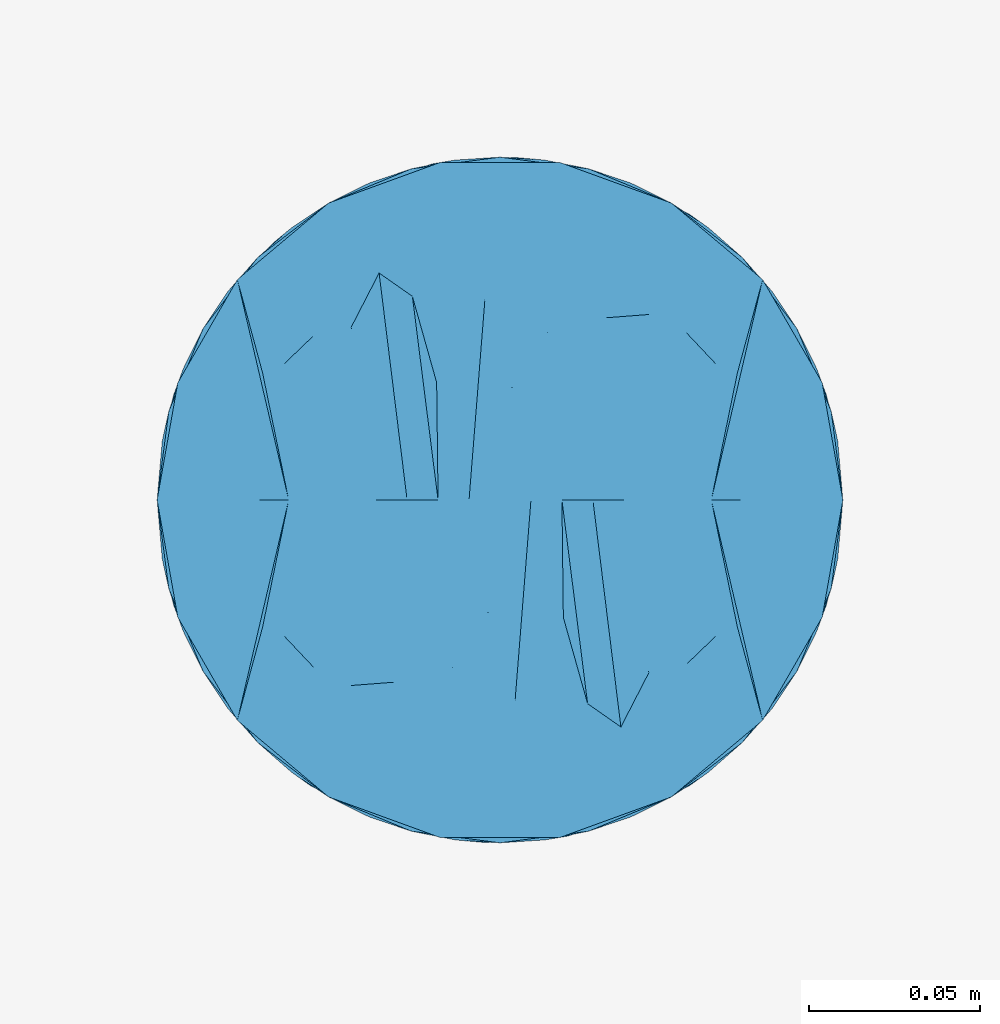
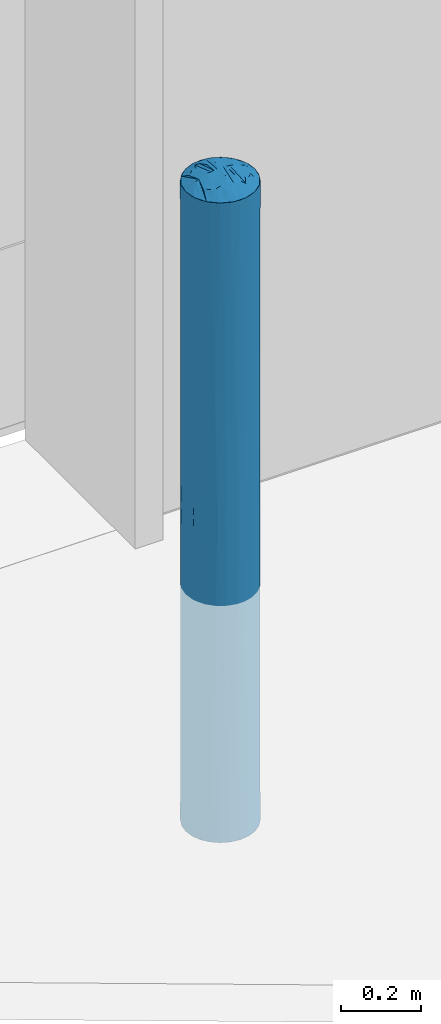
# One storey, part 41 of 77: 1 discrete accessory.
"""IFC2X3 building model written with IfcOpenShell, lengths in millimetres."""

from ifc_helpers import new_model, entity, si_unit, converted_unit, derived_unit, direction, frame, origin, place, context, subcontext, project, spatial, faceted_brep, source, transform, mapped, material, type_object, type_shapes, element, save


model = new_model("IFC2X3")

# Units and contexts
model_context = context("Model", 3, precision=0.01, world=origin(), true_north=direction((6.12303176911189e-17, 1.0)))
body_context = subcontext(model_context, "Body", "Model", "MODEL_VIEW")
ifc_project = project(units=[si_unit("LENGTHUNIT", "METRE", prefix="MILLI"), si_unit("AREAUNIT", "SQUARE_METRE"), si_unit("VOLUMEUNIT", "CUBIC_METRE"), converted_unit("PLANEANGLEUNIT", "DEGREE", entity("IfcRatioMeasure", 0.0174532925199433), si_unit("PLANEANGLEUNIT", "RADIAN"), dimensions=[0, 0, 0, 0, 0, 0, 0]), si_unit("MASSUNIT", "GRAM", prefix="KILO"), derived_unit("MASSDENSITYUNIT", [(si_unit("MASSUNIT", "GRAM", prefix="KILO"), 1), (si_unit("LENGTHUNIT", "METRE"), -3)]), si_unit("TIMEUNIT", "SECOND"), si_unit("FREQUENCYUNIT", "HERTZ"), si_unit("THERMODYNAMICTEMPERATUREUNIT", "DEGREE_CELSIUS"), derived_unit("THERMALTRANSMITTANCEUNIT", [(si_unit("MASSUNIT", "GRAM", prefix="KILO"), 1), (si_unit("THERMODYNAMICTEMPERATUREUNIT", "KELVIN"), -1), (si_unit("TIMEUNIT", "SECOND"), -3)]), derived_unit("VOLUMETRICFLOWRATEUNIT", [(si_unit("LENGTHUNIT", "METRE"), 3), (si_unit("TIMEUNIT", "SECOND"), -1)]), si_unit("ELECTRICCURRENTUNIT", "AMPERE"), si_unit("ELECTRICVOLTAGEUNIT", "VOLT"), si_unit("POWERUNIT", "WATT"), si_unit("FORCEUNIT", "NEWTON", prefix="KILO"), si_unit("ILLUMINANCEUNIT", "LUX"), si_unit("LUMINOUSFLUXUNIT", "LUMEN"), si_unit("LUMINOUSINTENSITYUNIT", "CANDELA"), derived_unit("USERDEFINED", [(si_unit("MASSUNIT", "GRAM", prefix="KILO"), -1), (si_unit("LENGTHUNIT", "METRE"), -2), (si_unit("TIMEUNIT", "SECOND"), 3), (si_unit("LUMINOUSFLUXUNIT", "LUMEN"), 1)]), derived_unit("LINEARVELOCITYUNIT", [(si_unit("LENGTHUNIT", "METRE"), 1), (si_unit("TIMEUNIT", "SECOND"), -1)]), si_unit("PRESSUREUNIT", "PASCAL"), derived_unit("USERDEFINED", [(si_unit("LENGTHUNIT", "METRE"), -2), (si_unit("MASSUNIT", "GRAM", prefix="KILO"), 1), (si_unit("TIMEUNIT", "SECOND"), -2)])], contexts=[model_context])

# Site, building, storey
site_placement = place(None, origin())
site = spatial("IfcSite", under=ifc_project, at=site_placement, Name="Default", CompositionType="ELEMENT")
building_placement = place(site_placement, origin())
building = spatial("IfcBuilding", under=site, at=building_placement, CompositionType="ELEMENT")
storey_placement = place(building_placement, origin())
storey = spatial("IfcBuildingStorey", under=building, at=storey_placement, Name="1. KORRUS", CompositionType="ELEMENT", Elevation=0.0)

# Discrete accessory
ifc_material = material(Name="Default New Material-must-varv")
discrete_accessory_type = type_object("IfcDiscreteAccessoryType", Name="ukse-pollar", material=ifc_material)
shared_shape = source(origin(), body_context, "Body", "Brep", [
    faceted_brep([(93.969262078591, -34.2020143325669, 1200.0), (95.8287421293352, -23.6563789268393, 1200.0), (97.6882221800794, -13.1107435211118, 1200.0), (100.0, 0.0, 1200.0), (91.8749158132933, 0.0, 1205.6559032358), (83.7498316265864, 0.0, 1211.3118064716), (76.9390417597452, 0.0, 1216.05282423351), (69.2436158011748, -37.0764107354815, 1215.9880775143), (62.8416939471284, -39.8030161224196, 1218.4526620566), (63.3022221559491, -75.4406506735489, 1200.0), (-91.8749158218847, 0.0, 1205.65590322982), (-100.0, 0.0, 1200.0), (-97.6882221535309, -13.110743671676, 1200.0), (-95.8287421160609, -23.6563790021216, 1200.0), (-93.9692620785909, -34.2020143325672, 1200.0), (-76.9390417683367, 0.0, 1216.05282422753), (-83.7498316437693, 0.0, 1211.31180645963), (76.604444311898, -64.278760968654, 1200.0), (61.6281008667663, 0.0, 1224.0406107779), (85.2868531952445, -49.2403876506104, 1200.0), (4.40844307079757, -58.3778316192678, 1226.30016518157), (9.03191194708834, 0.0, 1237.09268012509), (-3.54862814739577, -32.9400963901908, 1234.4920463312), (44.627798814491, 0.0, 1230.53414834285), (54.6170308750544, -47.6944043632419, 1219.50624940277), (17.3648177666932, -98.4807753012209, 1200.0), (33.6824088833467, -92.5416578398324, 1200.0), (25.5588463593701, -59.4119136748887, 1223.53680168), (50.0, -86.6025403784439, 1200.0), (43.4209832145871, -50.3665618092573, 1222.6504135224), (36.1276477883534, 0.0, 1233.78091712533), (-85.2868531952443, -49.2403876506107, 1200.0), (-70.128251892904, 0.0, 1220.79384199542), (-76.6044443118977, -64.2787609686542, 1200.0), (-61.6281008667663, 0.0, 1224.0406107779), (70.128251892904, 0.0, 1220.79384199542), (-43.3922707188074, -54.0995868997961, 1221.20165944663), (-54.4185160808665, -48.7244133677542, 1219.21017541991), (-50.0, -86.6025403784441, 1200.0), (35.2622305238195, -66.2009236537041, 1218.09661192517), (27.095735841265, 0.0, 1234.88483812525), (-63.3022221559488, -75.4406506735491, 1200.0), (-62.8416940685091, -39.8030246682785, 1218.45265938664), (18.4754636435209, -34.2574490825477, 1233.0588958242), (18.0638238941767, 0.0, 1235.98875912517), (-53.1279498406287, 0.0, 1227.28737956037), (-69.2436179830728, -37.0764202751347, 1215.98807356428), (15.0400910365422, -63.9380091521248, 1223.05106581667), (0.0, -98.4807753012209, 1200.0), (-21.4967364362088, -71.3818883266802, 1218.36002279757), (-31.093916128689, -53.1550996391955, 1224.97270928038), (-33.6824088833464, -92.5416578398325, 1200.0), (-36.1276477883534, 0.0, 1233.78091712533), (-27.095735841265, 0.0, 1234.88483812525), (-13.9644320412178, -48.8776365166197, 1229.32055829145), (53.1279498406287, 0.0, 1227.28737956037), (-44.627798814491, 0.0, 1230.53414834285), (-18.0638238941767, 0.0, 1235.98875912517), (-9.03191194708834, 0.0, 1237.09268012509), (-9.80597558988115, -78.5292492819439, 1215.62108797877), (-17.3648177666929, -98.480775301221, 1200.0), (0.0, 0.0, 1238.19660112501), (-93.9692620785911, 34.2020143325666, 1200.0), (-95.8287421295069, 23.6563789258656, 1200.0), (-97.6882221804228, 13.1107435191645, 1200.0), (50.0, 86.6025403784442, 1200.0), (54.4185175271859, 48.7244091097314, 1219.21017640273), (63.3022221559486, 75.4406506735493, 1200.0), (97.6882221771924, 13.110743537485, 1200.0), (95.8287421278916, 23.6563789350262, 1200.0), (93.9692620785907, 34.2020143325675, 1200.0), (-76.6044443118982, 64.2787609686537, 1200.0), (-69.2436157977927, 37.076410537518, 1215.98807757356), (-85.2868531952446, 49.2403876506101, 1200.0), (-4.40844201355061, 58.377832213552, 1226.30016496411), (3.5486282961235, 32.9400954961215, 1234.4920465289), (-54.6170308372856, 47.6944042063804, 1219.50624947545), (-62.8416938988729, 39.8030161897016, 1218.45266205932), (-17.3648177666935, 98.4807753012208, 1200.0), (-33.6824088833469, 92.5416578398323, 1200.0), (-25.5588462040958, 59.4119134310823, 1223.53680181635), (85.2868531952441, 49.240387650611, 1200.0), (-43.420983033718, 50.3665619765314, 1222.65041351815), (62.8416939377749, 39.803016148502, 1218.45266205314), (43.3922717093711, 54.0995849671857, 1221.20165990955), (-50.0, 86.6025403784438, 1200.0), (-63.3022221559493, 75.4406506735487, 1200.0), (-18.4754634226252, 34.2574489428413, 1233.05889588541), (76.6044443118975, 64.2787609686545, 1200.0), (69.2436157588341, 37.0764105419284, 1215.98807759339), (-35.2622303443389, 66.2009242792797, 1218.09661165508), (-15.0400904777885, 63.938008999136, 1223.05106595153), (0.0, 98.4807753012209, 1200.0), (21.4967358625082, 71.3818881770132, 1218.3600229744), (31.0939160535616, 53.1551002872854, 1224.97270904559), (33.6824088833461, 92.5416578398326, 1200.0), (13.964432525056, 48.8776338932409, 1229.32055915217), (9.80597229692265, 78.5292495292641, 1215.62108807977), (17.3648177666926, 98.480775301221, 1200.0), (0.0, 0.0, 1200.0)], [[[0, 1, 2, 3, 4, 5, 6]], [[7, 8, 9]], [[10, 11, 12, 13, 14, 15, 16]], [[17, 18, 7]], [[0, 6, 19]], [[17, 19, 18]], [[20, 21, 22]], [[23, 24, 8]], [[25, 26, 27]], [[28, 24, 29]], [[29, 24, 30]], [[31, 32, 15]], [[33, 34, 31]], [[35, 19, 6]], [[32, 31, 34]], [[36, 37, 38]], [[39, 29, 40]], [[15, 14, 31]], [[41, 37, 42]], [[21, 43, 44]], [[18, 19, 35]], [[45, 34, 46]], [[38, 37, 41]], [[42, 45, 46]], [[40, 44, 27]], [[43, 20, 47]], [[28, 39, 26]], [[48, 25, 47]], [[49, 50, 51]], [[52, 36, 53]], [[22, 54, 20]], [[29, 30, 40]], [[26, 39, 27]], [[8, 55, 23]], [[9, 24, 28]], [[23, 30, 24]], [[55, 8, 7]], [[9, 8, 24]], [[56, 42, 37]], [[54, 50, 49]], [[50, 53, 36]], [[53, 50, 57]], [[54, 57, 50]], [[38, 51, 36]], [[58, 57, 54]], [[20, 59, 48]], [[52, 37, 36]], [[50, 36, 51]], [[45, 42, 56]], [[37, 52, 56]], [[33, 41, 46]], [[55, 7, 18]], [[17, 7, 9]], [[42, 46, 41]], [[33, 46, 34]], [[27, 43, 47]], [[44, 43, 27]], [[43, 21, 20]], [[47, 25, 27]], [[60, 59, 49]], [[20, 48, 47]], [[27, 39, 40]], [[29, 39, 28]], [[54, 22, 58]], [[61, 58, 22]], [[61, 22, 21]], [[54, 49, 59]], [[60, 49, 51]], [[54, 59, 20]], [[59, 60, 48]], [[62, 63, 64, 11, 10, 16, 15]], [[65, 66, 67]], [[4, 3, 68, 69, 70, 6, 5]], [[71, 34, 72]], [[71, 73, 34]], [[74, 58, 75]], [[56, 76, 77]], [[78, 79, 80]], [[35, 81, 18]], [[82, 76, 52]], [[67, 66, 83]], [[62, 15, 73]], [[70, 81, 6]], [[32, 73, 15]], [[84, 66, 65]], [[85, 76, 82]], [[72, 77, 86]], [[6, 81, 35]], [[58, 87, 57]], [[88, 18, 81]], [[34, 73, 32]], [[55, 18, 89]], [[83, 55, 89]], [[90, 82, 53]], [[53, 57, 80]], [[87, 74, 91]], [[85, 90, 79]], [[92, 78, 91]], [[93, 94, 95]], [[30, 84, 40]], [[75, 96, 74]], [[82, 52, 53]], [[79, 90, 80]], [[77, 45, 56]], [[86, 76, 85]], [[56, 52, 76]], [[45, 77, 72]], [[86, 77, 76]], [[23, 83, 66]], [[96, 94, 93]], [[94, 40, 84]], [[40, 94, 44]], [[96, 44, 94]], [[65, 95, 84]], [[21, 44, 96]], [[74, 97, 92]], [[30, 66, 84]], [[94, 84, 95]], [[55, 83, 23]], [[66, 30, 23]], [[88, 67, 89]], [[45, 72, 34]], [[71, 72, 86]], [[83, 89, 67]], [[88, 89, 18]], [[80, 87, 91]], [[57, 87, 80]], [[87, 58, 74]], [[91, 78, 80]], [[98, 97, 93]], [[74, 92, 91]], [[80, 90, 53]], [[82, 90, 85]], [[96, 75, 21]], [[61, 21, 75]], [[61, 75, 58]], [[96, 93, 97]], [[98, 93, 95]], [[96, 97, 74]], [[97, 98, 92]], [[99, 33, 31]], [[99, 31, 14]], [[99, 14, 13]], [[99, 41, 33]], [[99, 38, 41]], [[99, 51, 38]], [[99, 60, 51]], [[99, 13, 12]], [[99, 12, 11]], [[99, 11, 64]], [[99, 48, 60]], [[99, 25, 48]], [[99, 26, 25]], [[99, 28, 26]], [[99, 9, 28]], [[99, 17, 9]], [[99, 19, 17]], [[99, 0, 19]], [[99, 1, 0]], [[99, 2, 1]], [[99, 3, 2]], [[99, 64, 63]], [[99, 63, 62]], [[99, 62, 73]], [[99, 73, 71]], [[99, 71, 86]], [[99, 86, 85]], [[99, 85, 79]], [[99, 79, 78]], [[99, 78, 92]], [[99, 68, 3]], [[99, 69, 68]], [[99, 70, 69]], [[99, 81, 70]], [[99, 88, 81]], [[99, 67, 88]], [[99, 65, 67]], [[99, 95, 65]], [[99, 98, 95]], [[99, 92, 98]]]),
    faceted_brep([(70.7106781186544, 70.7106781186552, 1200.0), (50.0, 86.6025403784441, 1200.0), (25.8819045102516, 96.592582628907, 1200.0), (0.0, 100.0, 1200.0), (-25.8819045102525, 96.5925826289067, 1200.0), (-50.0, 86.6025403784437, 1200.0), (-70.710678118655, 70.7106781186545, 1200.0), (-86.6025403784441, 50.0, 1200.0), (-96.5925826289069, 25.8819045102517, 1200.0), (-100.0, 0.0, 1200.0), (-96.5925826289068, -25.8819045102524, 1200.0), (-86.6025403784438, -50.0, 1200.0), (-70.7106781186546, -70.7106781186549, 1200.0), (-50.0, -86.602540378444, 1200.0), (-25.8819045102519, -96.5925826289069, 1200.0), (0.0, -100.0, 1200.0), (25.8819045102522, -96.5925826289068, 1200.0), (50.0, -86.6025403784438, 1200.0), (70.7106781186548, -70.7106781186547, 1200.0), (86.6025403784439, -50.0, 1200.0), (96.5925826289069, -25.8819045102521, 1200.0), (100.0, 0.0, 1200.0), (96.5925826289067, 25.8819045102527, 1200.0), (86.6025403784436, 50.0, 1200.0), (50.0, -86.6025403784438, -750.0), (25.8819045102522, -96.5925826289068, -750.0), (0.0, -100.0, -750.0), (-25.8819045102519, -96.5925826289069, -750.0), (-50.0, -86.602540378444, -750.0), (-70.7106781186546, -70.7106781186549, -750.0), (-86.6025403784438, -50.0, -750.0), (-96.5925826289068, -25.8819045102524, -750.0), (-100.0, 0.0, -750.0), (-96.5925826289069, 25.8819045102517, -750.0), (-86.6025403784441, 50.0, -750.0), (-70.710678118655, 70.7106781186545, -750.0), (-50.0, 86.6025403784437, -750.0), (-25.8819045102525, 96.5925826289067, -750.0), (0.0, 100.0, -750.0), (25.8819045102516, 96.592582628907, -750.0), (50.0, 86.6025403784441, -750.0), (70.7106781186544, 70.7106781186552, -750.0), (86.6025403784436, 50.0, -750.0), (96.5925826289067, 25.8819045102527, -750.0), (100.0, 0.0, -750.0), (96.5925826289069, -25.8819045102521, -750.0), (86.6025403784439, -50.0, -750.0), (70.7106781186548, -70.7106781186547, -750.0), (-92.387953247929, 38.2683432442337, -285.980854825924), (-95.1291375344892, 30.8293235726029, 225.0), (-79.3353340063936, 60.8761429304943, 225.0), (-60.8761428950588, 79.3353340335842, -151.214692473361), (-38.2683432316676, 92.3879532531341, -299.59510263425), (60.8761429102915, 79.3353340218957, 601.214692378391), (79.335334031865, 60.8761428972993, 225.0), (55.4391010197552, 83.225633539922, 225.0), (-79.3353340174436, 60.8761429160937, 749.595102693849), (4.65337325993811, 99.8916719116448, 225.0), (13.0526192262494, 99.1444861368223, -269.40187286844), (-13.0526192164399, 99.1444861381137, -151.214692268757), (-38.2683432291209, 92.387953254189, 225.0), (-38.2683432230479, 92.3879532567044, 749.595102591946), (-19.6480455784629, 98.0507741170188, 225.0), (-79.3353340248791, 60.8761429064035, -299.595102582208), (-60.876142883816, 79.3353340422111, 601.214692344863), (60.8761429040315, 79.3353340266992, -151.214692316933), (79.335334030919, 60.8761428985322, -299.595102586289), (-98.5078583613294, 17.2105154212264, -334.254320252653), (-100.0, 0.0, -51.6568483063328), (-100.0, 0.0, 501.662546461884), (-98.507858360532, 17.2105154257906, 784.254320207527), (-92.3879532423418, 38.2683432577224, 735.980854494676), (100.0, 0.0, -51.6591080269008), (95.1291375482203, 30.8293235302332, 225.0), (100.0, 0.0, 501.659108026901), (-55.4391010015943, 83.2256335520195, 225.0), (38.2683432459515, 92.3879532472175, 749.595102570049), (-13.0526192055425, 99.1444861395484, 601.214692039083), (38.2683432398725, 92.3879532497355, -299.595102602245), (92.3879532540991, 38.2683432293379, 735.980854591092), (92.3879532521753, 38.2683432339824, -285.980854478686), (79.335334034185, 60.8761428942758, 749.595102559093), (98.5078583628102, 17.2105154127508, 784.254320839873), (13.0526192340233, 99.1444861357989, 719.401872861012), (98.5078583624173, 17.2105154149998, -334.254320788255), (38.268343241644, 92.3879532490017, 225.0), (98.5078583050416, -17.210515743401, -334.254323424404), (-60.876142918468, -79.3353340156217, -151.214692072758), (-79.3353340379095, -60.8761428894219, -299.595102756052), (79.3353338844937, -60.8761430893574, -299.595101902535), (13.0526191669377, -99.1444861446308, -151.214692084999), (38.2683431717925, -92.3879532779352, -299.595102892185), (38.2683431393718, -92.3879532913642, 225.0), (38.2683431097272, -92.3879533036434, 749.595103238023), (19.6480455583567, -98.0507741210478, 225.0), (-13.0526193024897, -99.1444861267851, 719.401872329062), (60.8761427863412, -79.3353341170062, -151.214692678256), (66.0410934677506, -75.0904386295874, 225.000002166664), (-4.6533732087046, -99.8916719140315, 224.999998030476), (-13.0526192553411, -99.1444861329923, -269.401871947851), (95.1291373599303, -30.829324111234, 225.000013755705), (-95.1291375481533, -30.8293235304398, 225.0), (-98.5078583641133, -17.210515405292, -334.254320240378), (-92.3879532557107, -38.2683432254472, -285.980854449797), (79.3353338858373, -60.8761430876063, 749.595105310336), (79.3353338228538, -60.876143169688, 225.000002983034), (92.3879530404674, -38.2683437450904, -285.980851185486), (-38.2683432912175, -92.3879532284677, 749.595102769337), (92.38795316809, -38.2683434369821, 735.980862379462), (60.8761427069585, -79.3353341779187, 601.214694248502), (13.0526190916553, -99.144486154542, 601.214690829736), (-60.8761429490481, -79.3353339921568, 601.214692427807), (-79.3353340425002, -60.8761428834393, 225.0), (-55.4391010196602, -83.2256335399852, 225.0), (-38.2683432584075, -92.387953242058, -299.595102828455), (-92.3879532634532, -38.268343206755, 735.980854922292), (-79.3353340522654, -60.8761428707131, 749.59510268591), (-98.5078583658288, -17.2105153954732, 784.254320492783), (98.5078583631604, -17.2105154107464, 784.25432452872), (-38.2683432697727, -92.3879532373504, 225.0)], [[[0, 1, 2, 3, 4, 5, 6, 7, 8, 9, 10, 11, 12, 13, 14, 15, 16, 17, 18, 19, 20, 21, 22, 23]], [[24, 25, 26, 27, 28, 29, 30, 31, 32, 33, 34, 35, 36, 37, 38, 39, 40, 41, 42, 43, 44, 45, 46, 47]], [[48, 49, 50]], [[36, 51, 52]], [[53, 54, 55]], [[7, 6, 56]], [[52, 37, 36]], [[57, 58, 59]], [[60, 61, 62, 52]], [[50, 51, 63]], [[50, 56, 64]], [[41, 65, 66]], [[52, 62, 59]], [[48, 34, 33]], [[32, 67, 33]], [[49, 68, 69]], [[63, 35, 34]], [[41, 40, 65]], [[70, 71, 49]], [[72, 73, 74]], [[38, 37, 59]], [[64, 61, 75]], [[76, 2, 1]], [[5, 64, 6]], [[61, 5, 4]], [[4, 77, 61]], [[61, 60, 52, 75]], [[78, 40, 39]], [[39, 38, 58]], [[51, 50, 75]], [[66, 42, 41]], [[79, 73, 54]], [[54, 80, 66]], [[54, 81, 79]], [[22, 82, 79]], [[33, 67, 48]], [[6, 64, 56]], [[21, 82, 22]], [[77, 4, 3]], [[3, 83, 77]], [[42, 80, 43]], [[51, 36, 35]], [[70, 69, 9]], [[68, 67, 32]], [[53, 81, 54]], [[54, 66, 65]], [[84, 72, 44]], [[74, 82, 21]], [[78, 55, 65]], [[1, 0, 53]], [[73, 84, 80]], [[8, 7, 71]], [[81, 0, 23]], [[50, 71, 56]], [[50, 63, 48]], [[59, 58, 38]], [[83, 3, 2]], [[23, 22, 79]], [[1, 53, 76]], [[78, 85, 76, 55]], [[39, 58, 78]], [[57, 83, 85]], [[57, 62, 77]], [[85, 83, 76]], [[85, 78, 58]], [[63, 34, 48]], [[68, 49, 67]], [[8, 71, 70]], [[49, 71, 50]], [[81, 23, 79]], [[74, 73, 82]], [[43, 80, 84]], [[73, 80, 54]], [[37, 52, 59]], [[5, 61, 64]], [[40, 78, 65]], [[2, 76, 83]], [[7, 56, 71]], [[35, 63, 51]], [[42, 66, 80]], [[0, 81, 53]], [[58, 57, 85]], [[57, 77, 83]], [[48, 67, 49]], [[8, 70, 9]], [[69, 70, 49]], [[79, 82, 73]], [[43, 84, 44]], [[72, 84, 73]], [[59, 62, 57]], [[77, 62, 61]], [[64, 75, 50]], [[51, 75, 52]], [[65, 55, 54]], [[53, 55, 76]], [[45, 44, 86]], [[29, 87, 88]], [[89, 47, 46]], [[26, 25, 90]], [[91, 25, 24]], [[92, 93, 94, 91]], [[95, 15, 14]], [[96, 89, 97]], [[98, 99, 90]], [[94, 90, 91]], [[74, 100, 72]], [[101, 102, 103]], [[29, 28, 87]], [[24, 47, 96]], [[104, 19, 18]], [[105, 106, 100]], [[107, 14, 13]], [[108, 20, 19]], [[93, 92, 109]], [[92, 91, 96]], [[93, 17, 16]], [[18, 17, 109]], [[45, 106, 46]], [[16, 110, 93]], [[111, 112, 113]], [[114, 28, 27]], [[89, 105, 104, 97]], [[18, 109, 104]], [[88, 30, 29]], [[115, 101, 112]], [[24, 96, 91]], [[112, 103, 88]], [[112, 116, 115]], [[45, 86, 106]], [[109, 92, 97]], [[9, 117, 10]], [[110, 16, 15]], [[15, 95, 110]], [[116, 12, 11]], [[11, 10, 115]], [[118, 74, 21]], [[111, 116, 112]], [[112, 88, 87]], [[105, 108, 104]], [[114, 113, 87]], [[13, 12, 111]], [[102, 68, 32]], [[69, 117, 9]], [[30, 103, 31]], [[100, 118, 108]], [[10, 117, 115]], [[90, 99, 26]], [[27, 26, 99]], [[68, 101, 69]], [[13, 111, 107]], [[114, 119, 107, 113]], [[27, 99, 114]], [[98, 95, 119]], [[98, 94, 110]], [[119, 95, 107]], [[119, 114, 99]], [[89, 46, 106]], [[72, 100, 86]], [[20, 108, 118]], [[100, 108, 105]], [[116, 11, 115]], [[69, 101, 117]], [[31, 103, 102]], [[101, 103, 112]], [[47, 89, 96]], [[105, 89, 106]], [[19, 104, 108]], [[25, 91, 90]], [[17, 93, 109]], [[28, 114, 87]], [[14, 107, 95]], [[30, 88, 103]], [[12, 116, 111]], [[99, 98, 119]], [[98, 110, 95]], [[106, 86, 100]], [[72, 86, 44]], [[20, 118, 21]], [[74, 118, 100]], [[115, 117, 101]], [[31, 102, 32]], [[68, 102, 101]], [[96, 97, 92]], [[109, 97, 104]], [[90, 94, 98]], [[110, 94, 93]], [[87, 113, 112]], [[111, 113, 107]]]),
])
type_shapes(discrete_accessory_type, [shared_shape])
discrete_accessory_placement = place(storey_placement, frame((15110.0321791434, -750.0, 0.0), z_axis=(0.0, 0.0, 1.0), x_axis=(-1.0, 0.0, 0.0)))
element("IfcDiscreteAccessory", 1, at=discrete_accessory_placement, inside=storey, type_object=discrete_accessory_type, material=ifc_material, Name="ukse-pollar:ukse-pollar", ObjectType="ukse-pollar", context=body_context, shape_type="MappedRepresentation", body=[
    mapped(shared_shape, transform((0.0, 0.0, 0.0), scale=1.0)),
])

save(model, "model.ifc")
